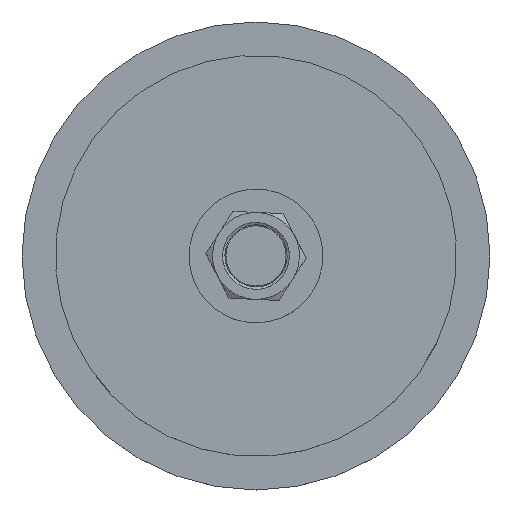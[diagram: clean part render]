
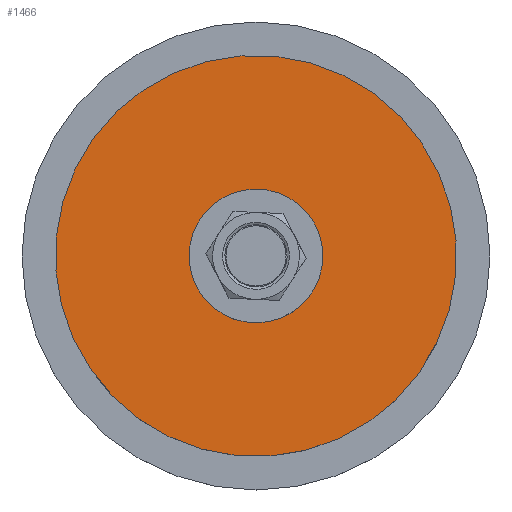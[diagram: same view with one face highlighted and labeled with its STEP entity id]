
A CAD part, top view. The second image highlights one B-rep face of the part: STEP entity #1466.
In plain terms, the highlighted planar face has unit normal (0, 0, 1).
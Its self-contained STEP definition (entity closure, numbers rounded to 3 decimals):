
#242=FACE_BOUND('',#380,.T.);
#274=FACE_OUTER_BOUND('',#379,.T.);
#379=EDGE_LOOP('',(#949));
#380=EDGE_LOOP('',(#950));
#502=CIRCLE('',#1607,30.);
#503=CIRCLE('',#1608,10.);
#604=VERTEX_POINT('',#2301);
#605=VERTEX_POINT('',#2303);
#736=EDGE_CURVE('',#604,#604,#502,.T.);
#737=EDGE_CURVE('',#605,#605,#503,.T.);
#949=ORIENTED_EDGE('',*,*,#736,.T.);
#950=ORIENTED_EDGE('',*,*,#737,.F.);
#1315=PLANE('',#1606);
#1466=ADVANCED_FACE('',(#274,#242),#1315,.T.);
#1606=AXIS2_PLACEMENT_3D('',#2300,#1836,#1837);
#1607=AXIS2_PLACEMENT_3D('',#2302,#1838,#1839);
#1608=AXIS2_PLACEMENT_3D('',#2304,#1840,#1841);
#1836=DIRECTION('center_axis',(0.,0.,
1.));
#1837=DIRECTION('ref_axis',(0.075,-0.997,0.));
#1838=DIRECTION('center_axis',(0.,0.,
1.));
#1839=DIRECTION('ref_axis',(-0.997,-0.075,0.));
#1840=DIRECTION('center_axis',(0.,0.,
1.));
#1841=DIRECTION('ref_axis',(-0.164,-0.987,0.));
#2300=CARTESIAN_POINT('Origin',(0.,0.,
-1.276));
#2301=CARTESIAN_POINT('',(29.916,2.244,-1.276));
#2302=CARTESIAN_POINT('Origin',(0.,0.,
-1.276));
#2303=CARTESIAN_POINT('',(1.636,9.865,-1.276));
#2304=CARTESIAN_POINT('Origin',(0.,0.,
-1.276));
